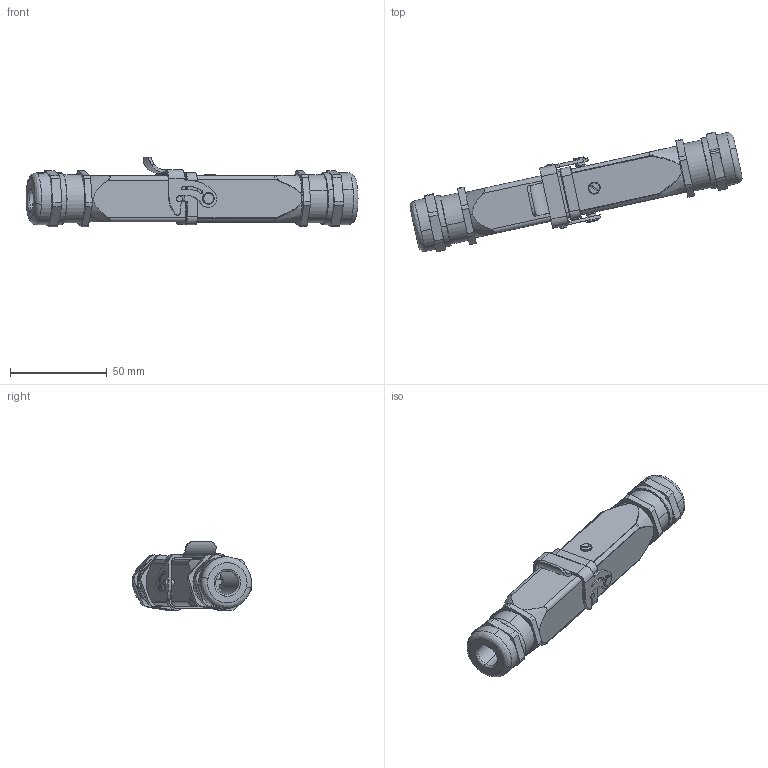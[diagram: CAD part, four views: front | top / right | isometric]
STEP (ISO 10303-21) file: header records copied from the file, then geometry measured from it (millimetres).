
FILE_DESCRIPTION (( 'STEP AP214' ), '1' );
FILE_NAME ('09003009220M HA、3针、对接底座、顶出20套件+金属接头.STEP', '2024-05-07T06:50:02', ( 'L' ), ( '' ), 'SwSTEP 2.0', 'SolidWorks 2019', '' );
FILE_SCHEMA (( 'AUTOMOTIVE_DESIGN' ));
Length unit declared in the file: millimetre
Products named in the file (9): FAS-20-M.step; h3a-mags.STEP.STEP; HA-003-F.stp.STEP; 09003009220M HA、3针、对接底座、顶出20套件+金属接头; h3a_.STEP.STEP; 09003009220 HA、3针、对接底座、顶出20套件.STEP; HA-003-M.stp.STEP; H3A-MTG-M20.step.STEP; H3A-MTGVB-M20.STEP.STEP
Assembly tree (9 placements, depth 4):
  09003009220M HA、3针、对接底座、顶出20套件+金属接头
    09003009220 HA、3针、对接底座、顶出20套件.STEP
      H3A-MTGVB-M20.STEP.STEP
        h3a-mags.STEP.STEP
        h3a_.STEP.STEP
      H3A-MTG-M20.step.STEP
      HA-003-F.stp.STEP
      HA-003-M.stp.STEP
    FAS-20-M.step  x2
Bounding box: 171.42 x 61.84 x 36.09 mm (x, y, z)
Volume: 62262.1 mm3; surface area: 43877.1 mm2
Topology: 7 solids, 7 shells, 1386 faces, 3784 edges, 2440 vertices
Faces by surface type: plane 631, cylinder 485, bspline 145, cone 61, torus 56, sphere 8
Entity records: 52647 total; most frequent: CARTESIAN_POINT 20076, ORIENTED_EDGE 7238, DIRECTION 6080, EDGE_CURVE 3619, VERTEX_POINT 2350, AXIS2_PLACEMENT_3D 2085, LINE 1910, VECTOR 1910
